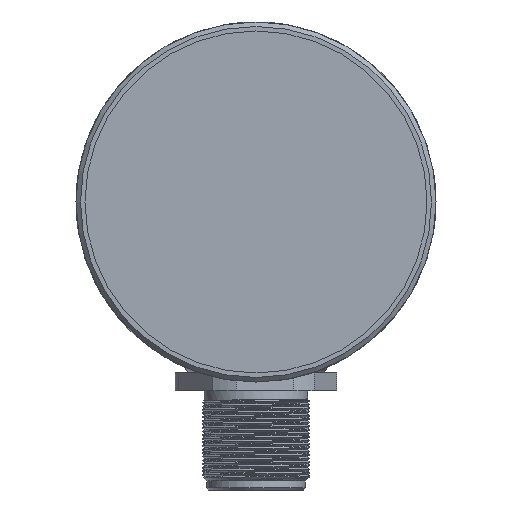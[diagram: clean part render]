
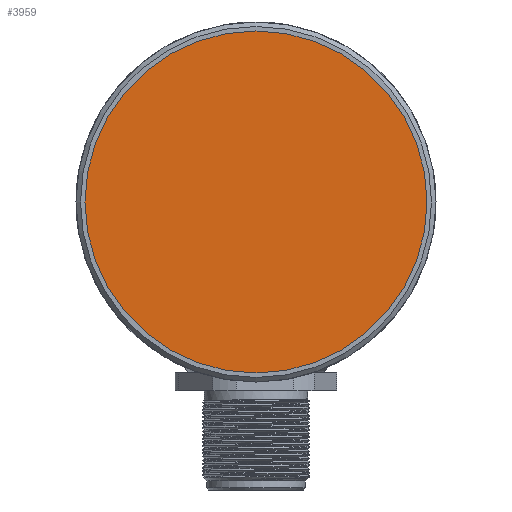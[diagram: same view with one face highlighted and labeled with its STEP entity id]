
A CAD part, left-side view. The second image highlights one B-rep face of the part: STEP entity #3959.
In plain terms, the highlighted planar face has unit normal (-1, 0, 0).
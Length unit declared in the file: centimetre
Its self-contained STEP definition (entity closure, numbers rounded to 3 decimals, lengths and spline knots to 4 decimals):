
#496=PLANE('',#4250);
#1269=VERTEX_POINT('',#5732);
#1538=CIRCLE('',#4249,1.9);
#1822=EDGE_CURVE('',#1269,#1269,#1538,.T.);
#2561=ORIENTED_EDGE('',*,*,#1822,.T.);
#3386=EDGE_LOOP('',(#2561));
#3679=FACE_BOUND('',#3386,.T.);
#3959=ADVANCED_FACE('',(#3679),#496,.F.);
#4249=AXIS2_PLACEMENT_3D('',#5731,#4769,#4770);
#4250=AXIS2_PLACEMENT_3D('',#5733,#4771,$);
#4769=DIRECTION('',(-1.,0.,0.));
#4770=DIRECTION('',(0.,0.,-1.9));
#4771=DIRECTION('',(1.,0.,0.));
#5731=CARTESIAN_POINT('',(-2.3,0.,0.));
#5732=CARTESIAN_POINT('',(-2.3,0.,-1.9));
#5733=CARTESIAN_POINT('',(-2.3,0.,0.));
